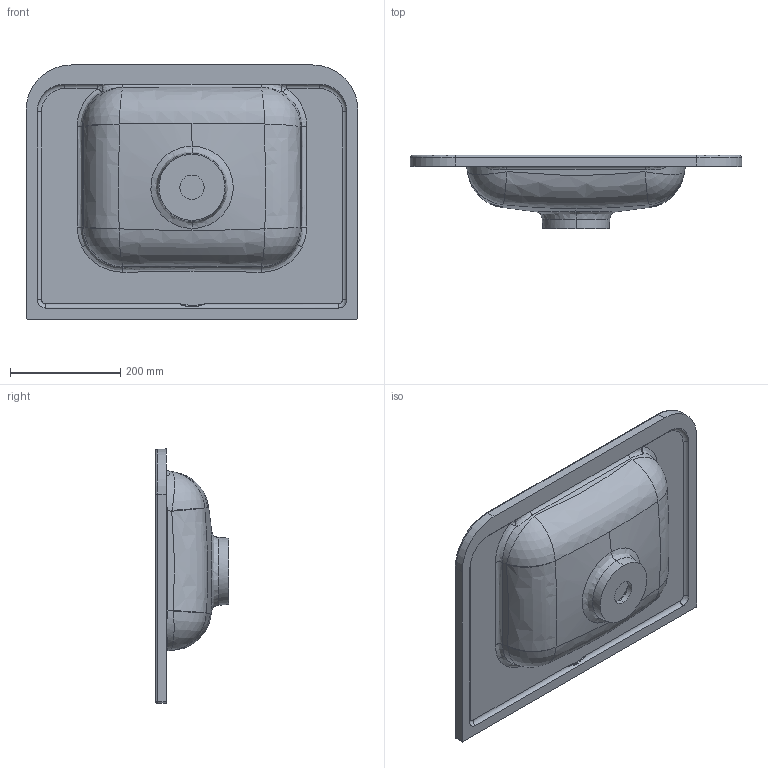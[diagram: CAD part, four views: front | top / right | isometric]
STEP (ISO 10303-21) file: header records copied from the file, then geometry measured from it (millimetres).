
FILE_DESCRIPTION (( 'STEP AP203' ), '1' );
FILE_NAME ('K7115061.stp', '2026-04-13T12:41:19', ( '' ), ( '' ), 'SwSTEP 2.0', 'SolidWorks 2022', '' );
FILE_SCHEMA (( 'CONFIG_CONTROL_DESIGN' ));
Length unit declared in the file: millimetre
Products named in the file (1): K7115061
Bounding box: 602 x 133 x 461 mm (x, y, z)
Volume: 4980842.4 mm3; surface area: 738908.6 mm2
Topology: 2 solids, 2 shells, 139 faces, 311 edges, 178 vertices
Faces by surface type: cylinder 34, bspline 33, plane 21, cone 20, torus 18, sphere 13
Entity records: 8348 total; most frequent: CARTESIAN_POINT 5436, ORIENTED_EDGE 612, DIRECTION 579, EDGE_CURVE 306, AXIS2_PLACEMENT_3D 245, VERTEX_POINT 176, EDGE_LOOP 146, FACE_OUTER_BOUND 139
